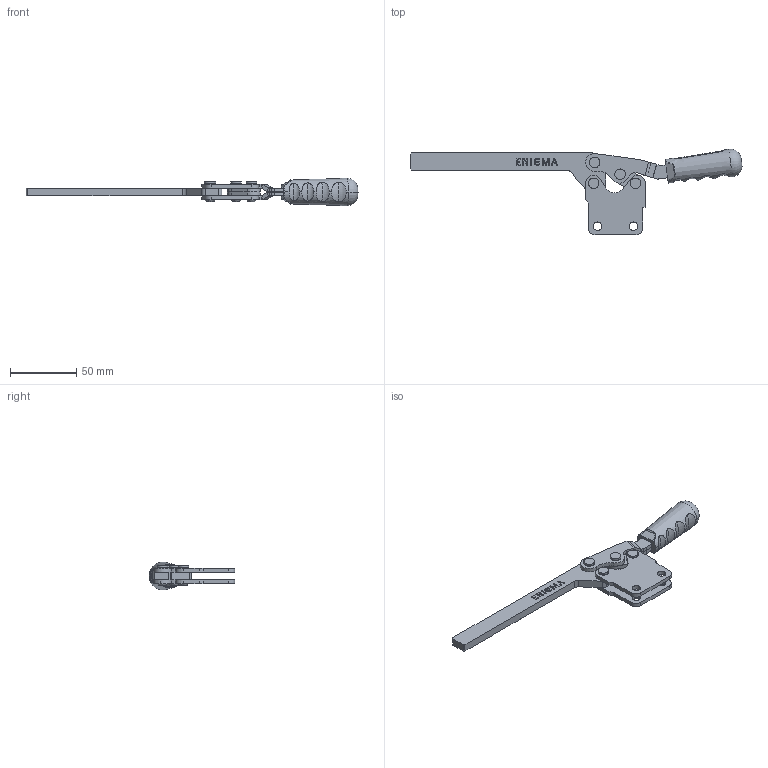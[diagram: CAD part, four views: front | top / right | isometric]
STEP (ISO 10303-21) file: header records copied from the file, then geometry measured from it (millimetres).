
FILE_DESCRIPTION (( 'STEP AP203' ), '1' );
FILE_NAME ('1203_D_L.STEP', '2022-11-24T13:44:53', ( '' ), ( '' ), 'SwSTEP 2.0', 'SolidWorks 2023', '' );
FILE_SCHEMA (( 'CONFIG_CONTROL_DESIGN' ));
Length unit declared in the file: millimetre
Products named in the file (8): Aynalama1215_C60Tutamakl_X2_0131_X0__Hareket Kolu_Varsay_X2_0131_X0_lan; C55_T(YENİ_TUTAMAK)_Varsayılan; 1215_Lama Bask_X2_0131_X0_ Kolu_Varsay_X2_0131_X0_lan; Pim_5x16_Varsay_X2_0131_X0_lan; 1215_UD_G_X2_00f6_X0_vde_Varsay_X2_0131_X0_lan; Koza_13x13_Varsay_X2_0131_X0_lan; 1203_D_L; 1215_C60Tutamakl_X2_0131_X0__Hareket Kolu_Varsay_X2_0131_X0_lan
Assembly tree (11 placements, depth 2):
  1203_D_L
    1215_C60Tutamakl_X2_0131_X0__Hareket Kolu_Varsay_X2_0131_X0_lan
    Koza_13x13_Varsay_X2_0131_X0_lan  x2
    Pim_5x16_Varsay_X2_0131_X0_lan  x4
    Aynalama1215_C60Tutamakl_X2_0131_X0__Hareket Kolu_Varsay_X2_0131_X0_lan
    1215_UD_G_X2_00f6_X0_vde_Varsay_X2_0131_X0_lan
    1215_Lama Bask_X2_0131_X0_ Kolu_Varsay_X2_0131_X0_lan
    C55_T(YENİ_TUTAMAK)_Varsayılan
Bounding box: 251.15 x 64.87 x 20.98 mm (x, y, z)
Volume: 46298.8 mm3; surface area: 30554.3 mm2
Topology: 12 solids, 12 shells, 835 faces, 2215 edges, 1444 vertices
Faces by surface type: plane 456, bspline 200, cylinder 167, torus 10, cone 2
Entity records: 29848 total; most frequent: CARTESIAN_POINT 13460, ORIENTED_EDGE 3536, DIRECTION 2604, EDGE_CURVE 1768, VERTEX_POINT 1162, VECTOR 1124, LINE 1124, AXIS2_PLACEMENT_3D 740
